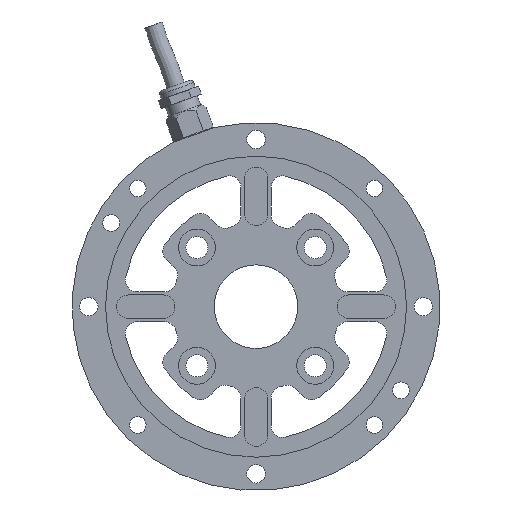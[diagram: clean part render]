
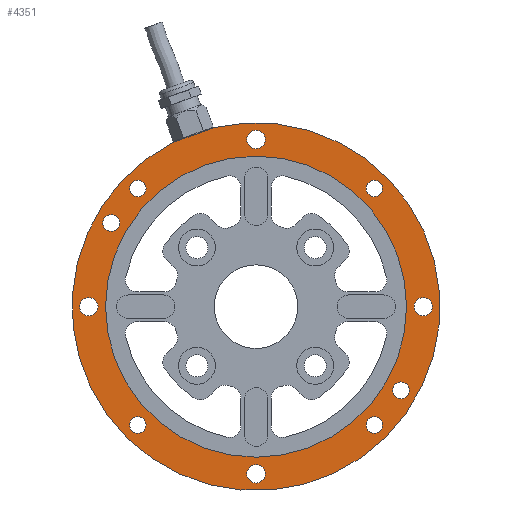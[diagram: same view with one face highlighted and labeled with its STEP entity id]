
A CAD part, front view. The second image highlights one B-rep face of the part: STEP entity #4351.
In plain terms, the highlighted planar face has unit normal (0, -1, 0).
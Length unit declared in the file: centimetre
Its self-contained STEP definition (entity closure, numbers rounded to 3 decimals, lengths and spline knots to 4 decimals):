
#921=CIRCLE('',#4489,0.25);
#923=CIRCLE('',#4492,0.25);
#1063=CIRCLE('',#4684,5.5);
#1064=CIRCLE('',#4686,0.275);
#1067=CIRCLE('',#4693,0.2459);
#1068=CIRCLE('',#4695,0.275);
#1071=CIRCLE('',#4702,0.2459);
#1072=CIRCLE('',#4704,0.275);
#1075=CIRCLE('',#4711,0.2459);
#1076=CIRCLE('',#4713,0.275);
#1079=CIRCLE('',#4720,0.2459);
#1080=CIRCLE('',#4722,4.5);
#1219=VERTEX_POINT('',#6254);
#1221=VERTEX_POINT('',#6259);
#1407=VERTEX_POINT('',#6733);
#1408=VERTEX_POINT('',#6735);
#1409=VERTEX_POINT('',#6741);
#1412=VERTEX_POINT('',#6751);
#1413=VERTEX_POINT('',#6754);
#1416=VERTEX_POINT('',#6764);
#1417=VERTEX_POINT('',#6767);
#1420=VERTEX_POINT('',#6777);
#1421=VERTEX_POINT('',#6780);
#1424=VERTEX_POINT('',#6790);
#1425=VERTEX_POINT('',#6793);
#1658=VECTOR('',#5569,1.);
#1920=LINE('',#6734,#1658);
#2161=EDGE_CURVE('',#1219,#1219,#921,.T.);
#2163=EDGE_CURVE('',#1221,#1221,#923,.T.);
#2406=EDGE_CURVE('',#1408,#1407,#1920,.T.);
#2408=EDGE_CURVE('',#1408,#1407,#1063,.T.);
#2409=EDGE_CURVE('',#1409,#1409,#1064,.T.);
#2412=EDGE_CURVE('',#1412,#1412,#1067,.T.);
#2413=EDGE_CURVE('',#1413,#1413,#1068,.T.);
#2416=EDGE_CURVE('',#1416,#1416,#1071,.T.);
#2417=EDGE_CURVE('',#1417,#1417,#1072,.T.);
#2420=EDGE_CURVE('',#1420,#1420,#1075,.T.);
#2421=EDGE_CURVE('',#1421,#1421,#1076,.T.);
#2424=EDGE_CURVE('',#1424,#1424,#1079,.T.);
#2425=EDGE_CURVE('',#1425,#1425,#1080,.T.);
#3459=ORIENTED_EDGE('',*,*,#2161,.T.);
#3460=ORIENTED_EDGE('',*,*,#2163,.T.);
#3461=ORIENTED_EDGE('',*,*,#2406,.T.);
#3462=ORIENTED_EDGE('',*,*,#2408,.F.);
#3463=ORIENTED_EDGE('',*,*,#2409,.T.);
#3464=ORIENTED_EDGE('',*,*,#2412,.T.);
#3465=ORIENTED_EDGE('',*,*,#2413,.T.);
#3466=ORIENTED_EDGE('',*,*,#2416,.T.);
#3467=ORIENTED_EDGE('',*,*,#2417,.T.);
#3468=ORIENTED_EDGE('',*,*,#2420,.T.);
#3469=ORIENTED_EDGE('',*,*,#2421,.T.);
#3470=ORIENTED_EDGE('',*,*,#2424,.T.);
#3471=ORIENTED_EDGE('',*,*,#2425,.T.);
#3816=EDGE_LOOP('',(#3459));
#3817=EDGE_LOOP('',(#3460));
#3818=EDGE_LOOP('',(#3461,#3462));
#3819=EDGE_LOOP('',(#3463));
#3820=EDGE_LOOP('',(#3464));
#3821=EDGE_LOOP('',(#3465));
#3822=EDGE_LOOP('',(#3466));
#3823=EDGE_LOOP('',(#3467));
#3824=EDGE_LOOP('',(#3468));
#3825=EDGE_LOOP('',(#3469));
#3826=EDGE_LOOP('',(#3470));
#3827=EDGE_LOOP('',(#3471));
#4113=FACE_BOUND('',#3816,.T.);
#4114=FACE_BOUND('',#3817,.T.);
#4115=FACE_BOUND('',#3818,.T.);
#4116=FACE_BOUND('',#3819,.T.);
#4117=FACE_BOUND('',#3820,.T.);
#4118=FACE_BOUND('',#3821,.T.);
#4119=FACE_BOUND('',#3822,.T.);
#4120=FACE_BOUND('',#3823,.T.);
#4121=FACE_BOUND('',#3824,.T.);
#4122=FACE_BOUND('',#3825,.T.);
#4123=FACE_BOUND('',#3826,.T.);
#4124=FACE_BOUND('',#3827,.T.);
#4351=ADVANCED_FACE('',(#4113,#4114,#4115,#4116,#4117,#4118,#4119,#4120,
#4121,#4122,#4123,#4124),#7271,.F.);
#4489=AXIS2_PLACEMENT_3D('',#6253,#5104,#5105);
#4492=AXIS2_PLACEMENT_3D('',#6258,#5110,#5111);
#4684=AXIS2_PLACEMENT_3D('',#6738,#5573,#5574);
#4686=AXIS2_PLACEMENT_3D('',#6740,#5577,#5578);
#4693=AXIS2_PLACEMENT_3D('',#6750,#5590,#5591);
#4695=AXIS2_PLACEMENT_3D('',#6753,#5594,#5595);
#4702=AXIS2_PLACEMENT_3D('',#6763,#5607,#5608);
#4704=AXIS2_PLACEMENT_3D('',#6766,#5611,#5612);
#4711=AXIS2_PLACEMENT_3D('',#6776,#5624,#5625);
#4713=AXIS2_PLACEMENT_3D('',#6779,#5628,#5629);
#4720=AXIS2_PLACEMENT_3D('',#6789,#5641,#5642);
#4722=AXIS2_PLACEMENT_3D('',#6792,#5645,#5646);
#4768=AXIS2_PLACEMENT_3D('',#6881,#5764,$);
#5104=DIRECTION('',(0.,1.,0.));
#5105=DIRECTION('',(0.,0.,0.25));
#5110=DIRECTION('',(0.,1.,0.));
#5111=DIRECTION('',(0.,0.,0.25));
#5569=DIRECTION('',(-0.94,0.,-0.342));
#5573=DIRECTION('',(0.,1.,0.));
#5574=DIRECTION('',(5.5,0.,0.));
#5577=DIRECTION('',(0.,1.,0.));
#5578=DIRECTION('',(0.,0.,0.275));
#5590=DIRECTION('',(0.,1.,0.));
#5591=DIRECTION('',(0.,0.,0.246));
#5594=DIRECTION('',(0.,1.,0.));
#5595=DIRECTION('',(0.,0.,0.275));
#5607=DIRECTION('',(0.,1.,0.));
#5608=DIRECTION('',(0.,0.,0.246));
#5611=DIRECTION('',(0.,1.,0.));
#5612=DIRECTION('',(0.,0.,0.275));
#5624=DIRECTION('',(0.,1.,0.));
#5625=DIRECTION('',(0.,0.,0.246));
#5628=DIRECTION('',(0.,1.,0.));
#5629=DIRECTION('',(0.,0.,0.275));
#5641=DIRECTION('',(0.,1.,0.));
#5642=DIRECTION('',(0.,0.,0.246));
#5645=DIRECTION('',(0.,1.,0.));
#5646=DIRECTION('',(4.5,0.,0.));
#5764=DIRECTION('',(0.,1.,0.));
#6253=CARTESIAN_POINT('',(4.3301,-0.7,-2.5));
#6254=CARTESIAN_POINT('',(4.3301,-0.7,-2.75));
#6258=CARTESIAN_POINT('',(-4.3301,-0.7,2.5));
#6259=CARTESIAN_POINT('',(-4.3301,-0.7,2.25));
#6733=CARTESIAN_POINT('',(-2.4896,-0.7,4.9043));
#6734=CARTESIAN_POINT('',(-1.8674,-0.7,5.1307));
#6735=CARTESIAN_POINT('',(-1.2452,-0.7,5.3572));
#6738=CARTESIAN_POINT('',(0.,-0.7,0.));
#6740=CARTESIAN_POINT('',(0.,-0.7,-5.));
#6741=CARTESIAN_POINT('',(0.,-0.7,-4.725));
#6750=CARTESIAN_POINT('',(3.5355,-0.7,3.5355));
#6751=CARTESIAN_POINT('',(3.5355,-0.7,3.2897));
#6753=CARTESIAN_POINT('',(5.,-0.7,0.));
#6754=CARTESIAN_POINT('',(5.,-0.7,0.275));
#6763=CARTESIAN_POINT('',(-3.5355,-0.7,3.5355));
#6764=CARTESIAN_POINT('',(-3.5355,-0.7,3.2897));
#6766=CARTESIAN_POINT('',(0.,-0.7,5.));
#6767=CARTESIAN_POINT('',(0.,-0.7,5.275));
#6776=CARTESIAN_POINT('',(-3.5355,-0.7,-3.5355));
#6777=CARTESIAN_POINT('',(-3.5355,-0.7,-3.7814));
#6779=CARTESIAN_POINT('',(-5.,-0.7,0.));
#6780=CARTESIAN_POINT('',(-5.,-0.7,0.275));
#6789=CARTESIAN_POINT('',(3.5355,-0.7,-3.5355));
#6790=CARTESIAN_POINT('',(3.5355,-0.7,-3.7814));
#6792=CARTESIAN_POINT('',(0.,-0.7,0.));
#6793=CARTESIAN_POINT('',(4.5,-0.7,0.));
#6881=CARTESIAN_POINT('',(0.,-0.7,0.));
#7271=PLANE('',#4768);
